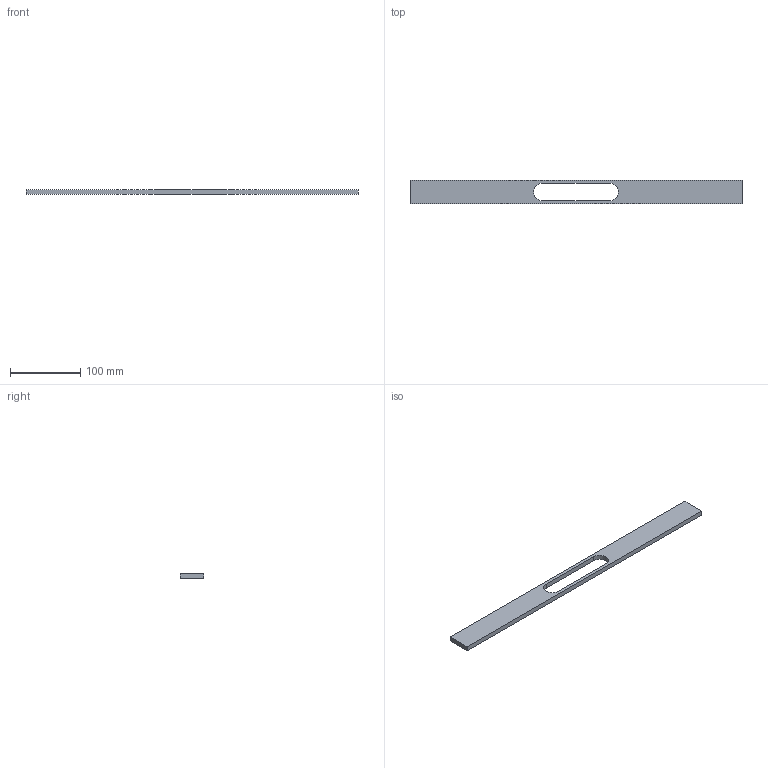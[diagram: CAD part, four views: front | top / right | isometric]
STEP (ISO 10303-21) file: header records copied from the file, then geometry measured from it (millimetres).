
FILE_DESCRIPTION( ( 'STEP AP214' ), '1' );
FILE_NAME( 'C:/Users/swati/Desktop/10-03-2016/11-03-2016/9064820/9064820.stp', ' ', ( ' ' ), ( ' ' ), 'PSStep 15.0.47', 'PARTsolutions', ' ' );
FILE_SCHEMA( ( 'AUTOMOTIVE_DESIGN { 1 0 10303 214 1 1 1 1 }' ) );
Length unit declared in the file: millimetre
Products named in the file (2): 95 ; _
Assembly tree (1 placements, depth 2):
  95 
    _
Bounding box: 472 x 34 x 7 mm (x, y, z)
Volume: 91872.8 mm3; surface area: 35730.2 mm2
Topology: 1 solids, 1 shells, 18 faces, 36 edges, 24 vertices
Faces by surface type: plane 12, cylinder 6
Full cylindrical faces by diameter (mm): 4 x4
Entity records: 638 total; most frequent: DIRECTION 84, CARTESIAN_POINT 76, ORIENTED_EDGE 64, AXIS2_PLACEMENT_3D 32, EDGE_CURVE 32, EDGE_LOOP 28, VERTEX_POINT 24, FACE_OUTER_BOUND 22
